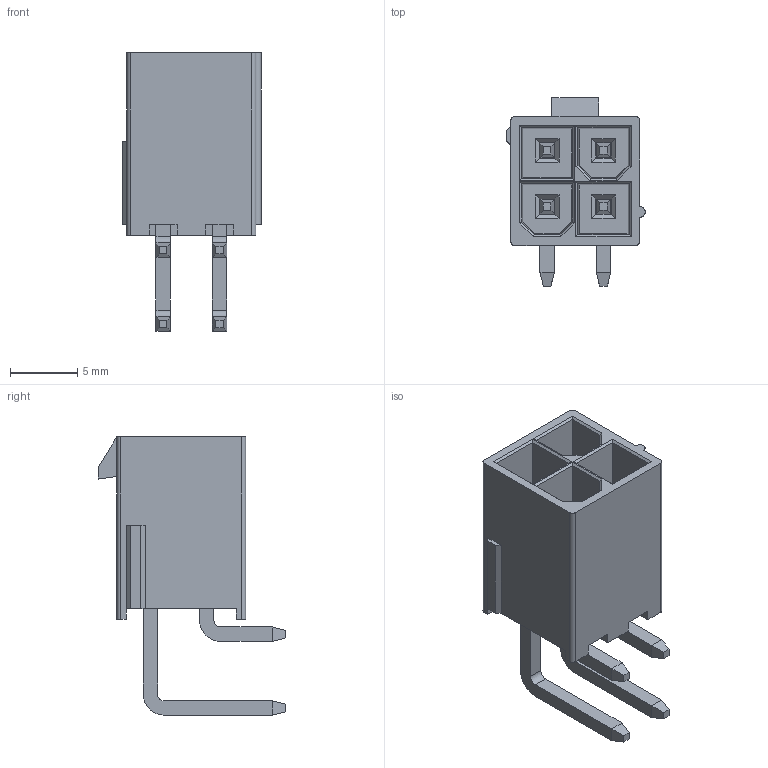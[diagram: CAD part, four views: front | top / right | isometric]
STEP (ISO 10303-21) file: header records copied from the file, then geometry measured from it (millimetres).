
FILE_DESCRIPTION((''),'2;1');
FILE_NAME('S-57953-004XX-XXX_ASM','2018-05-08T',('d33379'),(''),'CREO PARAMETRIC BY PTC INC, 2014500','CREO PARAMETRIC BY PTC INC, 2014500','');
FILE_SCHEMA(('CONFIG_CONTROL_DESIGN'));
Length unit declared in the file: millimetre
Products named in the file (1): S-57953-004XX-XXX_ASM
Bounding box: 10.3 x 14 x 20.73 mm (x, y, z)
Volume: 702.5 mm3; surface area: 1722.4 mm2
Topology: 1 solids, 1 shells, 288 faces, 756 edges, 489 vertices
Faces by surface type: plane 259, cylinder 29
Entity records: 8723 total; most frequent: CARTESIAN_POINT 1528, ORIENTED_EDGE 1496, DIRECTION 1406, EDGE_CURVE 748, VECTOR 688, LINE 688, VERTEX_POINT 481, AXIS2_PLACEMENT_3D 359
